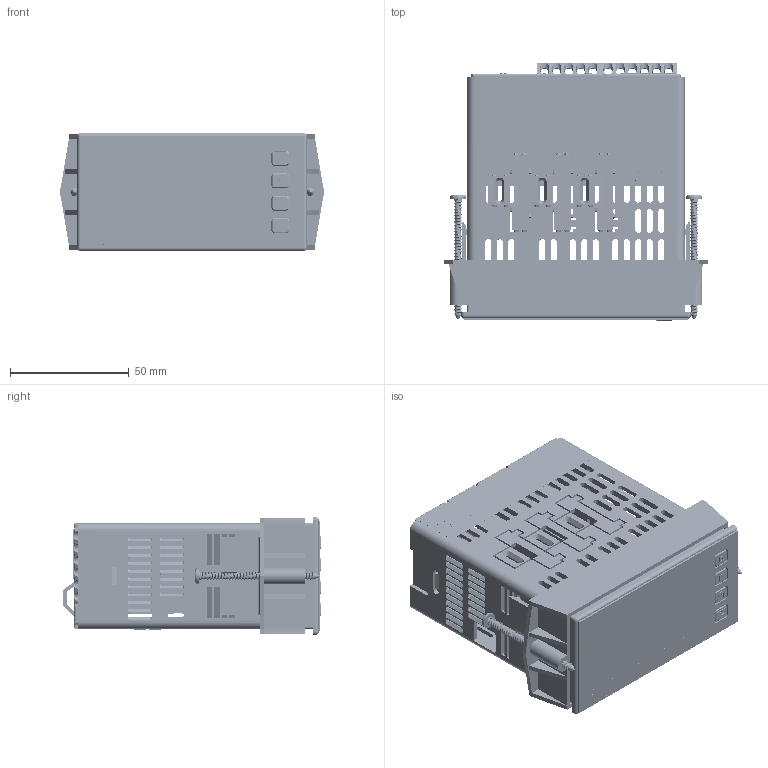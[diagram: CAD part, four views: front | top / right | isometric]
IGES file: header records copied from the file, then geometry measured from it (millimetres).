
Start section: SolidWorks IGES file using analytic representation for surfaces
Global section: file name: W:\Teams\Mech\SE data\Product_Lines\Customer 3D Models (Step files)\PAX2D\IGES\PAX2D_IGES.IGS; native system: SolidWorks 2022; preprocessor: SolidWorks 2022; author: joseph.cirabisi; date: 230103.161633; units: inch
Bounding box: 111.07 x 108.71 x 49.53 mm (x, y, z)
Surface area: 162224.8 mm2 (no closed solid volume)
Topology: 0 solids, 0 shells, 6001 faces, 54189 edges, 54142 vertices
Faces by surface type: bspline 4673, revolution 1328
